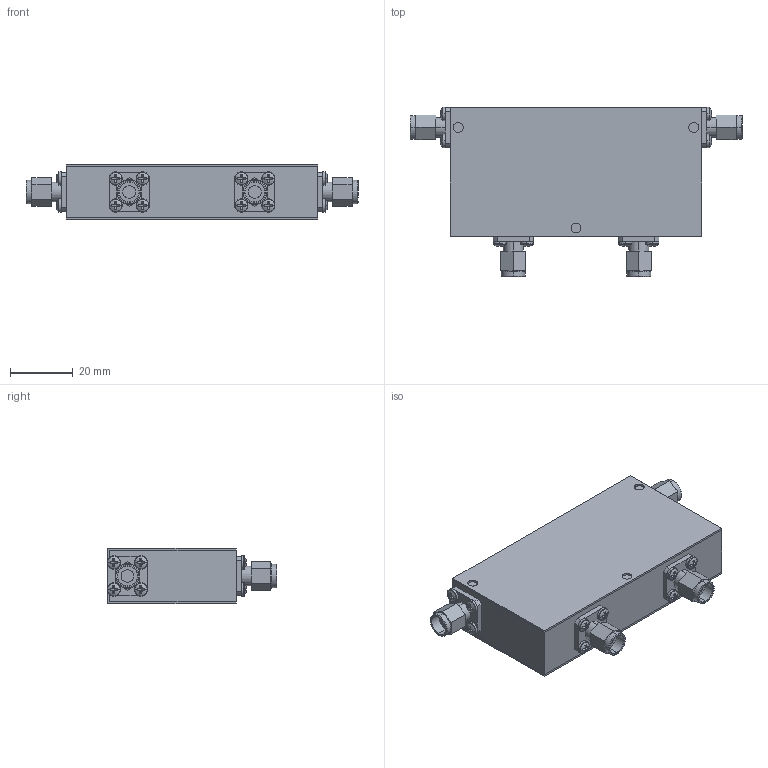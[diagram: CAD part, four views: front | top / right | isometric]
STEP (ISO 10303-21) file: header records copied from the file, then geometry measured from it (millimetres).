
FILE_DESCRIPTION (( 'STEP AP214' ), '1' );
FILE_NAME ('Package 17 Circ MMMM.step', '2021-12-01T20:58:47', ( '' ), ( '' ), 'SwSTEP 2.0', 'SolidWorks 2016', '' );
FILE_SCHEMA (( 'AUTOMOTIVE_DESIGN' ));
Length unit declared in the file: inch
Products named in the file (5): Delta SMA-Male; pan cross head_ai_CR-PHMS 0.086-56x0.125x0.125-N; Package 17 Circ MMMM; Package Size 17; Package 17
Assembly tree (22 placements, depth 2):
  Package 17 Circ MMMM
    Package 17
    pan cross head_ai_CR-PHMS 0.086-56x0.125x0.125-N  x16
    Delta SMA-Male  x4
    Package Size 17
Bounding box: 106.02 x 54.11 x 17.78 mm (x, y, z)
Volume: 61213.2 mm3; surface area: 31184.8 mm2
Topology: 22 solids, 22 shells, 584 faces, 1328 edges, 816 vertices
Faces by surface type: plane 340, cylinder 156, torus 56, sphere 32
Entity records: 3288 total; most frequent: DIRECTION 594, CARTESIAN_POINT 509, ORIENTED_EDGE 472, EDGE_CURVE 236, AXIS2_PLACEMENT_3D 235, VERTEX_POINT 150, VECTOR 124, LINE 124
